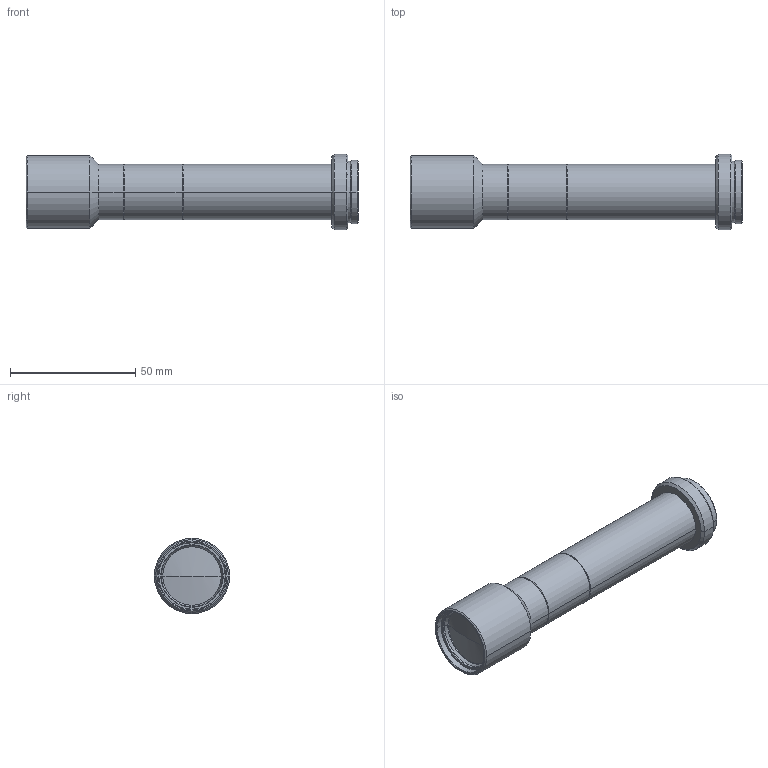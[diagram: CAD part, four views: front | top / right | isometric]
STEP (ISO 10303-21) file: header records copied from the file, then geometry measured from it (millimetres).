
FILE_DESCRIPTION (( 'STEP AP203' ), '1' );
FILE_NAME ('VS-TCH2-110.STEP', '2013-09-04T07:06:17', ( 'VS Technology' ), ( '' ), 'SwSTEP 2.0', 'SolidWorks 2012', '' );
FILE_SCHEMA (( 'CONFIG_CONTROL_DESIGN' ));
Length unit declared in the file: millimetre
Products named in the file (1): VS-TCH2-110
Bounding box: 132.5 x 30 x 30 mm (x, y, z)
Volume: 41871.8 mm3; surface area: 15705.5 mm2
Topology: 1 solids, 1 shells, 87 faces, 172 edges, 96 vertices
Faces by surface type: cone 42, cylinder 32, plane 9, sphere 4
Entity records: 2293 total; most frequent: DIRECTION 446, CARTESIAN_POINT 356, ORIENTED_EDGE 344, AXIS2_PLACEMENT_3D 186, EDGE_CURVE 172, CIRCLE 98, EDGE_LOOP 96, VERTEX_POINT 96
